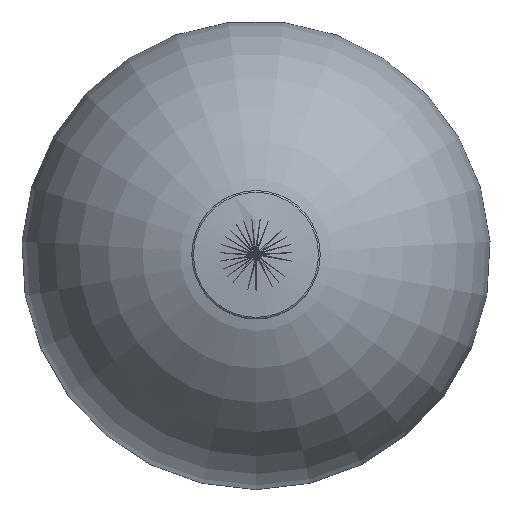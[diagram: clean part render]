
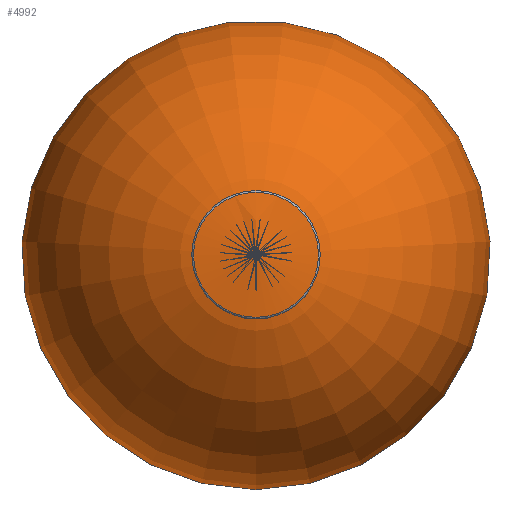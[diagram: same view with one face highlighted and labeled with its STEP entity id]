
A CAD part, top view. The second image highlights one B-rep face of the part: STEP entity #4992.
In plain terms, the highlighted toroidal (fillet/blend) face has major radius 1.403 mm and minor radius 56 mm.
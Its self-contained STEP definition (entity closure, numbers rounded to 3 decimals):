
#4992 = ADVANCED_FACE ( 'NONE', ( #21853 ), #39241, .T. ) ;
#6767 = DIRECTION ( 'NONE',  ( 0., 0., -1. ) ) ;
#7674 = AXIS2_PLACEMENT_3D ( 'NONE', #22185, #9325, #21906 ) ;
#9325 = DIRECTION ( 'NONE',  ( 0., 0., -1. ) ) ;
#9737 = DIRECTION ( 'NONE',  ( 0., 1., 0. ) ) ;
#17460 = EDGE_LOOP ( 'NONE', ( #18120 ) ) ;
#18120 = ORIENTED_EDGE ( 'NONE', *, *, #20084, .F. ) ;
#20084 = EDGE_CURVE ( 'NONE', #35877, #35877, #37652, .T. ) ;
#21853 = FACE_OUTER_BOUND ( 'NONE', #17460, .T. ) ;
#21906 = DIRECTION ( 'NONE',  ( 0., 1., 0. ) ) ;
#22185 = CARTESIAN_POINT ( 'NONE',  ( 0., -7.474, -52.169 ) ) ;
#28605 = CARTESIAN_POINT ( 'NONE',  ( 0., 7.091, 2.263 ) ) ;
#35877 = VERTEX_POINT ( 'NONE', #28605 ) ;
#37652 = CIRCLE ( 'NONE', #40057, 14.565 ) ;
#38803 = CARTESIAN_POINT ( 'NONE',  ( 0., -7.474, 2.263 ) ) ;
#39241 = TOROIDAL_SURFACE ( 'NONE', #7674, 1.404, 56. ) ;
#40057 = AXIS2_PLACEMENT_3D ( 'NONE', #38803, #6767, #9737 ) ;
